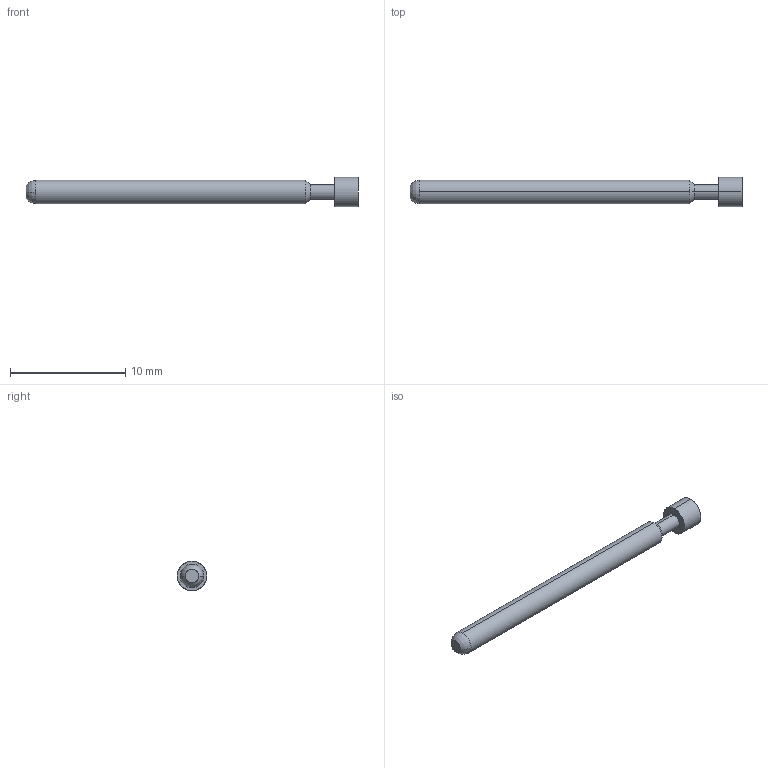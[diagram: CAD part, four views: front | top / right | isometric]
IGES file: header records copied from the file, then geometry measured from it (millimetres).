
Start section: SolidWorks IGES file using analytic representation for surfaces
Global section: file name: C:\Documents and Settings\mrumschlag\Desktop\changes\new\test\EPA-3F RECD.IGS; native system: SolidWorks 2008; preprocessor: SolidWorks 2008; author: mrumschlag; date: 110414.162812; units: inch
Bounding box: 28.78 x 2.54 x 2.54 mm (x, y, z)
Surface area: 192.2 mm2 (no closed solid volume)
Topology: 0 solids, 0 shells, 13 faces, 140 edges, 140 vertices
Faces by surface type: revolution 10, bspline 3
